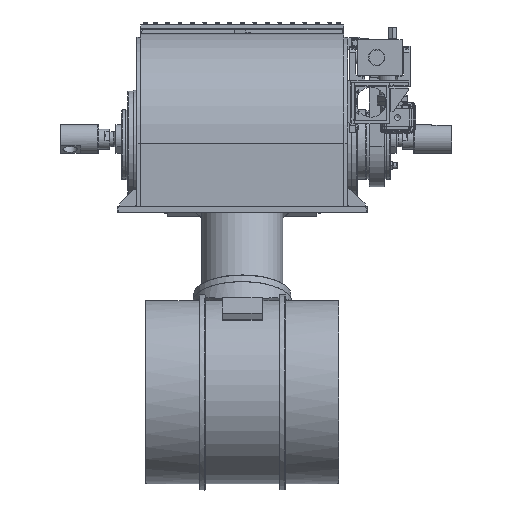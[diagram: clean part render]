
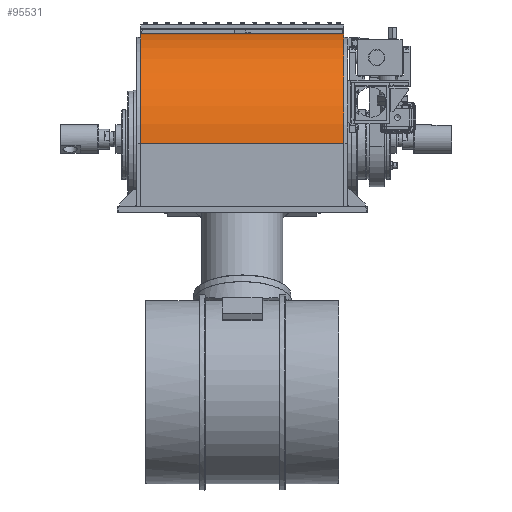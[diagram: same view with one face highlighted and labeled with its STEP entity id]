
A CAD part, front view. The second image highlights one B-rep face of the part: STEP entity #95531.
In plain terms, the highlighted cylindrical face has radius 440 mm (diameter 880 mm), a partial arc.
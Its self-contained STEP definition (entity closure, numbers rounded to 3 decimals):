
#9711=LINE('',#250337,#16256);
#9712=LINE('',#250341,#16257);
#16256=VECTOR('',#119918,10.);
#16257=VECTOR('',#119921,10.);
#19487=CYLINDRICAL_SURFACE('',#102488,440.);
#23147=FACE_OUTER_BOUND('',#28672,.T.);
#28672=EDGE_LOOP('',(#77240,#77241,#77242,#77243));
#32964=CIRCLE('',#102489,440.);
#32965=CIRCLE('',#102490,440.);
#42443=VERTEX_POINT('',#250335);
#42444=VERTEX_POINT('',#250336);
#42445=VERTEX_POINT('',#250338);
#42446=VERTEX_POINT('',#250340);
#54613=EDGE_CURVE('',#42443,#42444,#9711,.T.);
#54614=EDGE_CURVE('',#42445,#42443,#32964,.T.);
#54615=EDGE_CURVE('',#42445,#42446,#9712,.T.);
#54616=EDGE_CURVE('',#42444,#42446,#32965,.T.);
#77240=ORIENTED_EDGE('',*,*,#54613,.F.);
#77241=ORIENTED_EDGE('',*,*,#54614,.F.);
#77242=ORIENTED_EDGE('',*,*,#54615,.T.);
#77243=ORIENTED_EDGE('',*,*,#54616,.F.);
#95531=ADVANCED_FACE('',(#23147),#19487,.T.);
#102488=AXIS2_PLACEMENT_3D('',#250334,#119916,#119917);
#102489=AXIS2_PLACEMENT_3D('',#250339,#119919,#119920);
#102490=AXIS2_PLACEMENT_3D('',#250342,#119922,#119923);
#119916=DIRECTION('center_axis',(-1.,0.,0.));
#119917=DIRECTION('ref_axis',(0.,-1.,0.));
#119918=DIRECTION('',(1.,0.,0.));
#119919=DIRECTION('center_axis',(-1.,0.,0.));
#119920=DIRECTION('ref_axis',(0.,-1.,0.));
#119921=DIRECTION('',(1.,0.,0.));
#119922=DIRECTION('center_axis',(1.,0.,0.));
#119923=DIRECTION('ref_axis',(0.,0.,
1.));
#250334=CARTESIAN_POINT('Origin',(221.581,-427.37,196.));
#250335=CARTESIAN_POINT('',(-185.919,-427.37,636.));
#250336=CARTESIAN_POINT('',(629.081,-427.37,636.));
#250337=CARTESIAN_POINT('',(221.581,-427.37,636.));
#250338=CARTESIAN_POINT('',(-185.919,-867.37,196.));
#250339=CARTESIAN_POINT('Origin',(-185.919,-427.37,196.));
#250340=CARTESIAN_POINT('',(629.081,-867.37,196.));
#250341=CARTESIAN_POINT('',(221.581,-867.37,196.));
#250342=CARTESIAN_POINT('Origin',(629.081,-427.37,196.));
